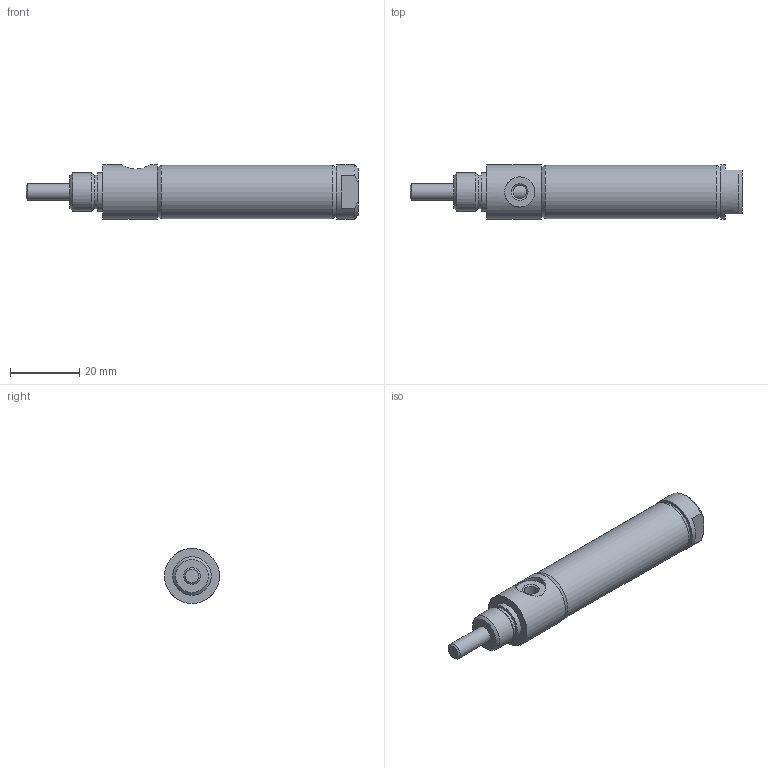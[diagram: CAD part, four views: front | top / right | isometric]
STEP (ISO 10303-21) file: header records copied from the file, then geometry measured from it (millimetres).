
FILE_DESCRIPTION( ( 'STEP AP214' ), '1' );
FILE_NAME( 'p:/temp/worker_384/temp/exporttempdir_3680_76_Uxo5f/format_0/0563D01-01A.stp', '2020-05-07T12:51:40', ( 'License CC BY-ND 4.0' ), ( 'CADENAS' ), ' ', 'PARTsolutions', ' ' );
FILE_SCHEMA( ( 'AUTOMOTIVE_DESIGN { 1 0 10303 214 1 1 1 1 }' ) );
Length unit declared in the file: inch
Products named in the file (3): 0563D01-01A; _0563D01-01A-000b; _0563D01-01A-000r
Assembly tree (2 placements, depth 2):
  0563D01-01A
    _0563D01-01A-000b
    _0563D01-01A-000r
Bounding box: 96.04 x 15.88 x 15.88 mm (x, y, z)
Volume: 11115.5 mm3; surface area: 9807.1 mm2
Topology: 2 solids, 2 shells, 42 faces, 77 edges, 49 vertices
Faces by surface type: plane 18, cylinder 15, cone 9
Full cylindrical faces by diameter (mm): 3.967 x2, 4.775 x3, 4.826 x1, 8.738 x1, 9.601 x1, 11.1 x1, 11.112 x1, 14.287 x2, 15.392 x1, 15.875 x2
Entity records: 1446 total; most frequent: CARTESIAN_POINT 289, DIRECTION 176, ORIENTED_EDGE 106, AXIS2_PLACEMENT_3D 84, EDGE_LOOP 78, FACE_OUTER_BOUND 57, EDGE_CURVE 53, VERTEX_POINT 47
